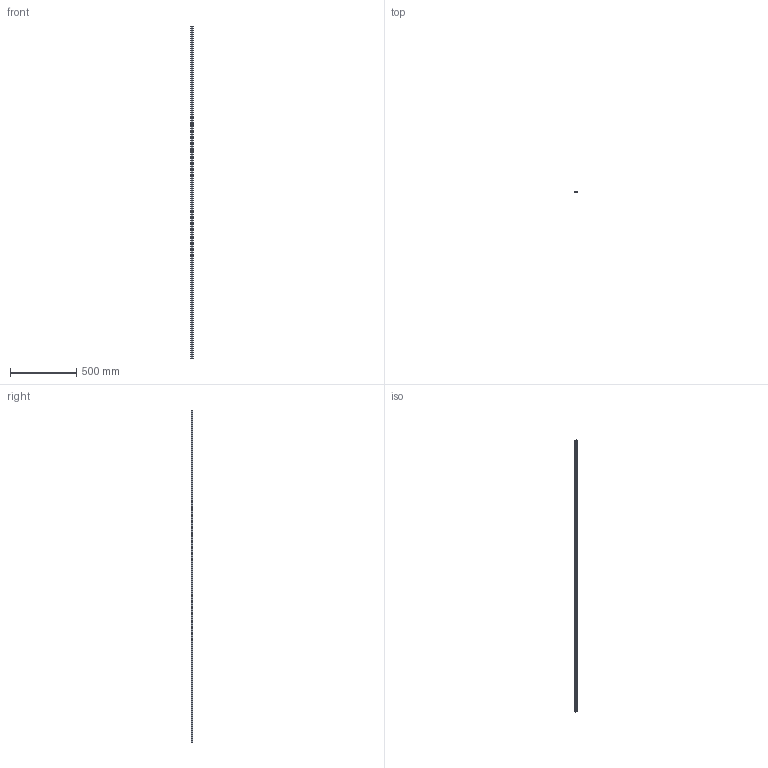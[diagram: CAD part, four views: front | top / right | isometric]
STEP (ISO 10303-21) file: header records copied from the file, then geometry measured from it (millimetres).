
FILE_DESCRIPTION (( 'STEP AP203' ), '1' );
FILE_NAME ('ChannelLine_F_24.STEP', '2024-11-29T05:34:12', ( '' ), ( '' ), 'SwSTEP 2.0', 'SolidWorks 2023', '' );
FILE_SCHEMA (( 'CONFIG_CONTROL_DESIGN' ));
Length unit declared in the file: millimetre
Products named in the file (1): ChannelLine_F_24
Bounding box: 21 x 8.98 x 2500 mm (x, y, z)
Volume: 114864.8 mm3; surface area: 190653.6 mm2
Topology: 1 solids, 1 shells, 36 faces, 102 edges, 68 vertices
Faces by surface type: plane 24, cylinder 12
Entity records: 1247 total; most frequent: CARTESIAN_POINT 207, ORIENTED_EDGE 204, DIRECTION 200, EDGE_CURVE 102, VECTOR 78, LINE 78, VERTEX_POINT 68, AXIS2_PLACEMENT_3D 61
